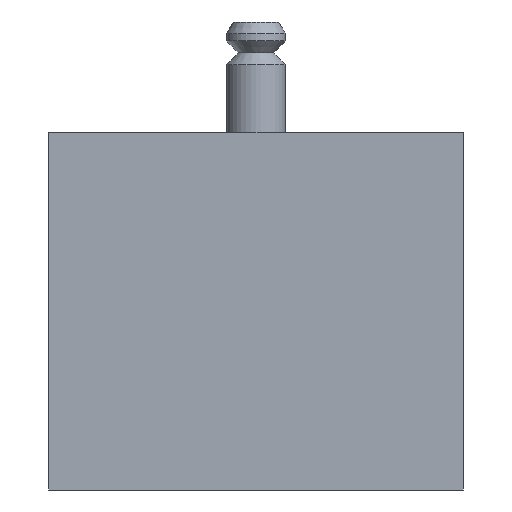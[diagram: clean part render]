
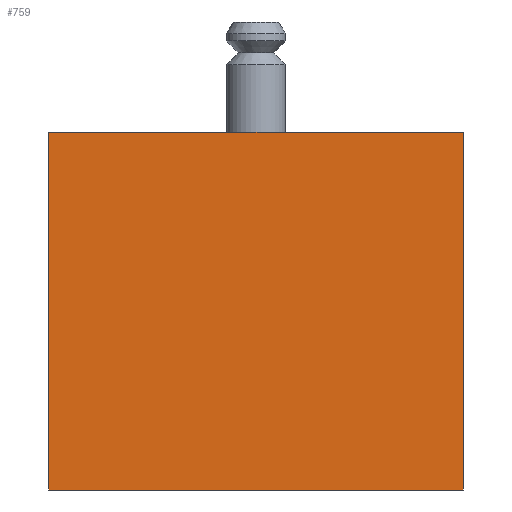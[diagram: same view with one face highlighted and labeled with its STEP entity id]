
A CAD part, left-side view. The second image highlights one B-rep face of the part: STEP entity #759.
In plain terms, the highlighted planar face has unit normal (-1, 0, 0).
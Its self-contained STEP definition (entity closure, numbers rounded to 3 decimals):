
#38=LINE('',#1484,#85);
#43=LINE('',#1571,#90);
#47=LINE('',#1587,#94);
#48=LINE('',#1589,#95);
#85=VECTOR('',#1247,1000.);
#90=VECTOR('',#1258,1000.);
#94=VECTOR('',#1274,1000.);
#95=VECTOR('',#1275,1000.);
#161=PLANE('',#1142);
#246=ORIENTED_EDGE('',*,*,#420,.T.);
#247=ORIENTED_EDGE('',*,*,#409,.T.);
#248=ORIENTED_EDGE('',*,*,#428,.F.);
#249=ORIENTED_EDGE('',*,*,#429,.F.);
#409=EDGE_CURVE('',#502,#505,#38,.T.);
#420=EDGE_CURVE('',#516,#502,#43,.T.);
#428=EDGE_CURVE('',#522,#505,#47,.T.);
#429=EDGE_CURVE('',#516,#522,#48,.T.);
#502=VERTEX_POINT('',#1478);
#505=VERTEX_POINT('',#1483);
#516=VERTEX_POINT('',#1572);
#522=VERTEX_POINT('',#1588);
#604=EDGE_LOOP('',(#246,#247,#248,#249));
#681=FACE_BOUND('',#604,.T.);
#759=ADVANCED_FACE('',(#681),#161,.T.);
#1142=AXIS2_PLACEMENT_3D('',#1586,#1272,#1273);
#1247=DIRECTION('',(0.,0.,-1.));
#1258=DIRECTION('',(0.,1.,0.));
#1272=DIRECTION('',(-1.,0.,0.));
#1273=DIRECTION('',(0.,1.,0.));
#1274=DIRECTION('',(0.,1.,0.));
#1275=DIRECTION('',(0.,0.,-1.));
#1478=CARTESIAN_POINT('',(-32.,-26.,-30.125));
#1483=CARTESIAN_POINT('',(-32.,-26.,-60.375));
#1484=CARTESIAN_POINT('',(-32.,-26.,-30.125));
#1571=CARTESIAN_POINT('',(-32.,-61.,-30.125));
#1572=CARTESIAN_POINT('',(-32.,-61.,-30.125));
#1586=CARTESIAN_POINT('',(-32.,-61.,-30.125));
#1587=CARTESIAN_POINT('',(-32.,-61.,-60.375));
#1588=CARTESIAN_POINT('',(-32.,-61.,-60.375));
#1589=CARTESIAN_POINT('',(-32.,-61.,-30.125));
